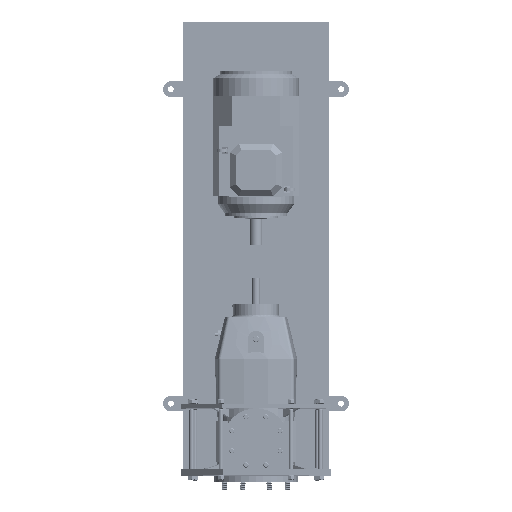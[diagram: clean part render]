
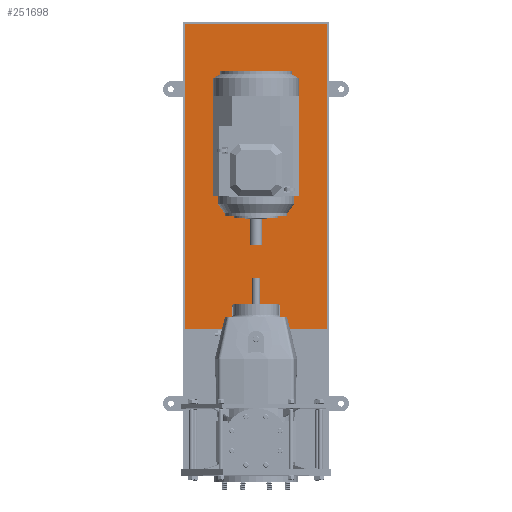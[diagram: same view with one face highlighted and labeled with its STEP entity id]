
A CAD part, top view. The second image highlights one B-rep face of the part: STEP entity #251698.
In plain terms, the highlighted planar face has unit normal (0, 0, 1).
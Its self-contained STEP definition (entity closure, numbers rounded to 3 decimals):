
#251642=CARTESIAN_POINT('',(217.5,446.0,-170.0));
#251643=VERTEX_POINT('',#251642);
#251644=CARTESIAN_POINT('',(-217.5,446.0,-170.0));
#251645=VERTEX_POINT('',#251644);
#251646=CARTESIAN_POINT('',(217.5,446.0,-170.0));
#251647=DIRECTION('',(-1.0,0.0,0.0));
#251648=VECTOR('',#251647,435.);
#251649=LINE('',#251646,#251648);
#251650=EDGE_CURVE('',#251643,#251645,#251649,.T.);
#251668=CARTESIAN_POINT('',(0.,913.5,-170.0));
#251669=DIRECTION('',(0.0,0.0,1.0));
#251670=DIRECTION('',(1.0,0.0,0.0));
#251671=AXIS2_PLACEMENT_3D('',#251668,#251669,#251670);
#251672=PLANE('',#251671);
#251673=CARTESIAN_POINT('',(-217.5,1381.0,-170.0));
#251674=VERTEX_POINT('',#251673);
#251675=CARTESIAN_POINT('',(217.5,1381.0,-170.0));
#251676=VERTEX_POINT('',#251675);
#251677=CARTESIAN_POINT('',(-217.5,1381.0,-170.0));
#251678=DIRECTION('',(1.0,0.0,0.0));
#251679=VECTOR('',#251678,435.0);
#251680=LINE('',#251677,#251679);
#251681=EDGE_CURVE('',#251674,#251676,#251680,.T.);
#251682=ORIENTED_EDGE('',*,*,#251681,.F.);
#251683=CARTESIAN_POINT('',(-217.5,446.0,-170.0));
#251684=DIRECTION('',(0.0,1.0,0.0));
#251685=VECTOR('',#251684,935.0);
#251686=LINE('',#251683,#251685);
#251687=EDGE_CURVE('',#251645,#251674,#251686,.T.);
#251688=ORIENTED_EDGE('',*,*,#251687,.F.);
#251689=ORIENTED_EDGE('',*,*,#251650,.F.);
#251690=CARTESIAN_POINT('',(217.5,1381.0,-170.0));
#251691=DIRECTION('',(0.0,-1.0,0.0));
#251692=VECTOR('',#251691,935.0);
#251693=LINE('',#251690,#251692);
#251694=EDGE_CURVE('',#251676,#251643,#251693,.T.);
#251695=ORIENTED_EDGE('',*,*,#251694,.F.);
#251696=EDGE_LOOP('',(#251682,#251688,#251689,#251695));
#251697=FACE_OUTER_BOUND('',#251696,.T.);
#251698=ADVANCED_FACE('',(#251697),#251672,.T.);
